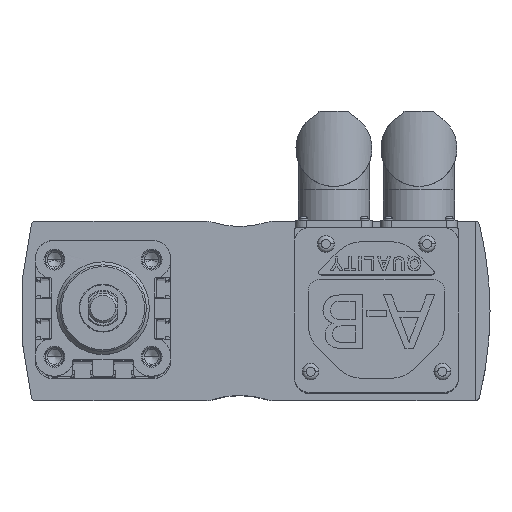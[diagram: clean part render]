
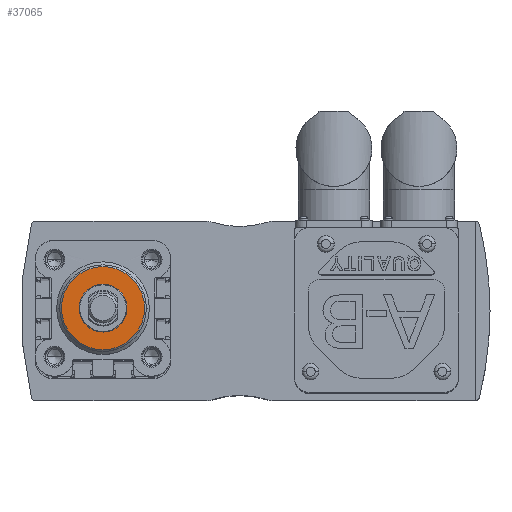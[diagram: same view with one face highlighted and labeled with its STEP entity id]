
A CAD part, top view. The second image highlights one B-rep face of the part: STEP entity #37065.
In plain terms, the highlighted planar face has unit normal (0, 0, 1).
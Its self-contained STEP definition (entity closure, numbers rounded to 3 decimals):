
#4074 = CARTESIAN_POINT ( 'NONE',  ( 0., 0., 17.5 ) ) ;
#4081 = DIRECTION ( 'NONE',  ( 0., 0., -1. ) ) ;
#4082 = DIRECTION ( 'NONE',  ( -1., 0., 0. ) ) ;
#4086 = CARTESIAN_POINT ( 'NONE',  ( 0., 0., 17.5 ) ) ;
#4093 = DIRECTION ( 'NONE',  ( 0., 0., 1. ) ) ;
#4094 = DIRECTION ( 'NONE',  ( -1., 0., 0. ) ) ;
#4409 = AXIS2_PLACEMENT_3D ( 'NONE', #4074, #4081, #4082 ) ;
#4413 = AXIS2_PLACEMENT_3D ( 'NONE', #4086, #4093, #4094 ) ;
#4460 = CIRCLE ( 'NONE', #4409, 8. ) ;
#4462 = CIRCLE ( 'NONE', #4413, 13.9 ) ;
#5144 = CIRCLE ( 'NONE', #16000, 13.9 ) ;
#5145 = CIRCLE ( 'NONE', #16001, 8. ) ;
#6535 = CARTESIAN_POINT ( 'NONE',  ( 8., 0., 17.5 ) ) ;
#6536 = CARTESIAN_POINT ( 'NONE',  ( -8., 0., 17.5 ) ) ;
#6539 = CARTESIAN_POINT ( 'NONE',  ( 13.9, 0., 17.5 ) ) ;
#6540 = CARTESIAN_POINT ( 'NONE',  ( -13.9, 0., 17.5 ) ) ;
#16000 = AXIS2_PLACEMENT_3D ( 'NONE', #16615, #16616, #16617 ) ;
#16001 = AXIS2_PLACEMENT_3D ( 'NONE', #16618, #16619, #16620 ) ;
#16615 = CARTESIAN_POINT ( 'NONE',  ( 0., 0., 17.5 ) ) ;
#16616 = DIRECTION ( 'NONE',  ( 0., 0., 1. ) ) ;
#16617 = DIRECTION ( 'NONE',  ( -1., 0., 0. ) ) ;
#16618 = CARTESIAN_POINT ( 'NONE',  ( 0., 0., 17.5 ) ) ;
#16619 = DIRECTION ( 'NONE',  ( 0., 0., -1. ) ) ;
#16620 = DIRECTION ( 'NONE',  ( -1., 0., 0. ) ) ;
#17800 = PLANE ( 'NONE',  #18031 ) ;
#17801 = CARTESIAN_POINT ( 'NONE',  ( 0., 6.95, 17.5 ) ) ;
#17802 = DIRECTION ( 'NONE',  ( 0., 0., 1. ) ) ;
#17803 = DIRECTION ( 'NONE',  ( 1., 0., 0. ) ) ;
#18026 = FACE_BOUND ( 'NONE', #36344, .T. ) ;
#18028 = FACE_OUTER_BOUND ( 'NONE', #36345, .T. ) ;
#18031 = AXIS2_PLACEMENT_3D ( 'NONE', #17801, #17802, #17803 ) ;
#28704 = EDGE_CURVE ( 'NONE', #29569, #29570, #4460, .T. ) ;
#28708 = EDGE_CURVE ( 'NONE', #29573, #29574, #4462, .T. ) ;
#29569 = VERTEX_POINT ( 'NONE', #6535 ) ;
#29570 = VERTEX_POINT ( 'NONE', #6536 ) ;
#29573 = VERTEX_POINT ( 'NONE', #6539 ) ;
#29574 = VERTEX_POINT ( 'NONE', #6540 ) ;
#34516 = EDGE_CURVE ( 'NONE', #29574, #29573, #5144, .T. ) ;
#34517 = EDGE_CURVE ( 'NONE', #29570, #29569, #5145, .T. ) ;
#36344 = EDGE_LOOP ( 'NONE', ( #36704, #36706 ) ) ;
#36345 = EDGE_LOOP ( 'NONE', ( #36702, #36707 ) ) ;
#36702 = ORIENTED_EDGE ( 'NONE', *, *, #34516, .T. ) ;
#36704 = ORIENTED_EDGE ( 'NONE', *, *, #34517, .T. ) ;
#36706 = ORIENTED_EDGE ( 'NONE', *, *, #28704, .T. ) ;
#36707 = ORIENTED_EDGE ( 'NONE', *, *, #28708, .T. ) ;
#37065 = ADVANCED_FACE ( 'NONE', ( #18026, #18028 ), #17800, .T. ) ;
